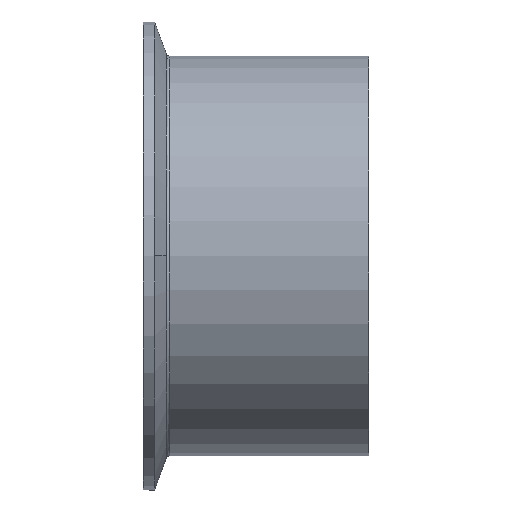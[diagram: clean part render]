
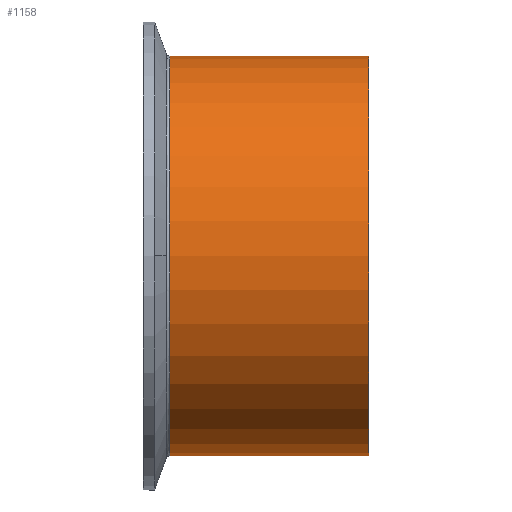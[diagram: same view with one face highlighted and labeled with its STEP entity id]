
A CAD part, top view. The second image highlights one B-rep face of the part: STEP entity #1158.
In plain terms, the highlighted cylindrical face has radius 50.8 mm (diameter 101.6 mm), a partial arc.
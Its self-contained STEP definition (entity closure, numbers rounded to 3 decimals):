
#5 = DIRECTION ( 'NONE',  ( 1., 0., 0. ) ) ;
#160 = EDGE_LOOP ( 'NONE', ( #1108, #317, #749, #619 ) ) ;
#187 = DIRECTION ( 'NONE',  ( 1., 0., 0. ) ) ;
#211 = CARTESIAN_POINT ( 'NONE',  ( 0., -50.8, 0. ) ) ;
#246 = CARTESIAN_POINT ( 'NONE',  ( 0., 50.8, 0. ) ) ;
#251 = CARTESIAN_POINT ( 'NONE',  ( -50.562, 50.8, 0. ) ) ;
#257 = CIRCLE ( 'NONE', #1029, 50.8 ) ;
#274 = LINE ( 'NONE', #701, #314 ) ;
#314 = VECTOR ( 'NONE', #1440, 1000. ) ;
#317 = ORIENTED_EDGE ( 'NONE', *, *, #1211, .T. ) ;
#439 = EDGE_CURVE ( 'NONE', #1201, #673, #1482, .T. ) ;
#479 = CARTESIAN_POINT ( 'NONE',  ( -50.562, -50.8, 0. ) ) ;
#495 = CARTESIAN_POINT ( 'NONE',  ( 0., 0., 0. ) ) ;
#507 = VECTOR ( 'NONE', #733, 1000. ) ;
#610 = DIRECTION ( 'NONE',  ( 0., 1., 0. ) ) ;
#612 = DIRECTION ( 'NONE',  ( 0., 1., 0. ) ) ;
#619 = ORIENTED_EDGE ( 'NONE', *, *, #1535, .F. ) ;
#673 = VERTEX_POINT ( 'NONE', #479 ) ;
#701 = CARTESIAN_POINT ( 'NONE',  ( 45.786, 50.8, 0. ) ) ;
#733 = DIRECTION ( 'NONE',  ( 1., 0., 0. ) ) ;
#749 = ORIENTED_EDGE ( 'NONE', *, *, #1197, .F. ) ;
#771 = AXIS2_PLACEMENT_3D ( 'NONE', #1023, #187, #907 ) ;
#818 = LINE ( 'NONE', #845, #507 ) ;
#845 = CARTESIAN_POINT ( 'NONE',  ( 45.786, -50.8, 0. ) ) ;
#907 = DIRECTION ( 'NONE',  ( 0., 1., 0. ) ) ;
#948 = VERTEX_POINT ( 'NONE', #211 ) ;
#1023 = CARTESIAN_POINT ( 'NONE',  ( -50.562, 0., 0. ) ) ;
#1029 = AXIS2_PLACEMENT_3D ( 'NONE', #495, #1353, #612 ) ;
#1108 = ORIENTED_EDGE ( 'NONE', *, *, #439, .T. ) ;
#1112 = AXIS2_PLACEMENT_3D ( 'NONE', #1469, #5, #610 ) ;
#1158 = ADVANCED_FACE ( 'NONE', ( #1190 ), #1511, .T. ) ;
#1190 = FACE_OUTER_BOUND ( 'NONE', #160, .T. ) ;
#1194 = VERTEX_POINT ( 'NONE', #246 ) ;
#1197 = EDGE_CURVE ( 'NONE', #1194, #948, #257, .T. ) ;
#1201 = VERTEX_POINT ( 'NONE', #251 ) ;
#1211 = EDGE_CURVE ( 'NONE', #673, #948, #818, .T. ) ;
#1353 = DIRECTION ( 'NONE',  ( 1., 0., 0. ) ) ;
#1440 = DIRECTION ( 'NONE',  ( 1., 0., 0. ) ) ;
#1469 = CARTESIAN_POINT ( 'NONE',  ( 45.786, 0., 0. ) ) ;
#1482 = CIRCLE ( 'NONE', #771, 50.8 ) ;
#1511 = CYLINDRICAL_SURFACE ( 'NONE', #1112, 50.8 ) ;
#1535 = EDGE_CURVE ( 'NONE', #1201, #1194, #274, .T. ) ;
